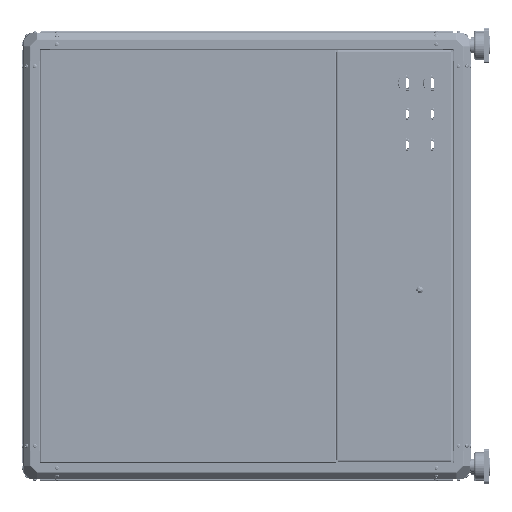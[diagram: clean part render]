
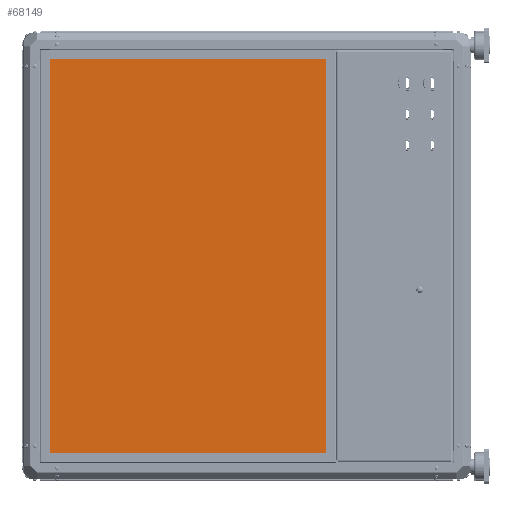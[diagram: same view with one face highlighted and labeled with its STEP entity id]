
A CAD part, left-side view. The second image highlights one B-rep face of the part: STEP entity #68149.
In plain terms, the highlighted planar face has unit normal (-1, 0, 0) as drawn and (0, 0, 1) by its records, which use the part's own axes.
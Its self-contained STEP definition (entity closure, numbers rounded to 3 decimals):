
#3466=FACE_BOUND('',#14204,.T.);
#3467=FACE_BOUND('',#14205,.T.);
#3468=FACE_BOUND('',#14206,.T.);
#3469=FACE_BOUND('',#14207,.T.);
#3470=FACE_BOUND('',#14208,.T.);
#3471=FACE_BOUND('',#14209,.T.);
#3472=FACE_BOUND('',#14210,.T.);
#5281=CIRCLE('',#74662,2.5);
#5283=CIRCLE('',#74665,2.5);
#5285=CIRCLE('',#74668,2.5);
#5287=CIRCLE('',#74671,2.5);
#5289=CIRCLE('',#74674,2.5);
#5291=CIRCLE('',#74677,2.5);
#5293=CIRCLE('',#74680,2.5);
#10122=FACE_OUTER_BOUND('',#14203,.T.);
#14203=EDGE_LOOP('',(#54494,#54495,#54496,#54497));
#14204=EDGE_LOOP('',(#54498));
#14205=EDGE_LOOP('',(#54499));
#14206=EDGE_LOOP('',(#54500));
#14207=EDGE_LOOP('',(#54501));
#14208=EDGE_LOOP('',(#54502));
#14209=EDGE_LOOP('',(#54503));
#14210=EDGE_LOOP('',(#54504));
#19874=LINE('',#114536,#26056);
#19876=LINE('',#114540,#26058);
#19878=LINE('',#114544,#26060);
#19880=LINE('',#114547,#26062);
#26056=VECTOR('',#87151,10.);
#26058=VECTOR('',#87155,10.);
#26060=VECTOR('',#87159,10.);
#26062=VECTOR('',#87163,10.);
#32220=VERTEX_POINT('',#114482);
#32222=VERTEX_POINT('',#114488);
#32224=VERTEX_POINT('',#114494);
#32226=VERTEX_POINT('',#114500);
#32228=VERTEX_POINT('',#114506);
#32230=VERTEX_POINT('',#114512);
#32232=VERTEX_POINT('',#114518);
#32238=VERTEX_POINT('',#114533);
#32239=VERTEX_POINT('',#114535);
#32240=VERTEX_POINT('',#114539);
#32241=VERTEX_POINT('',#114543);
#40128=EDGE_CURVE('',#32220,#32220,#5281,.T.);
#40131=EDGE_CURVE('',#32222,#32222,#5283,.T.);
#40134=EDGE_CURVE('',#32224,#32224,#5285,.T.);
#40137=EDGE_CURVE('',#32226,#32226,#5287,.T.);
#40140=EDGE_CURVE('',#32228,#32228,#5289,.T.);
#40143=EDGE_CURVE('',#32230,#32230,#5291,.T.);
#40146=EDGE_CURVE('',#32232,#32232,#5293,.T.);
#40154=EDGE_CURVE('',#32239,#32238,#19874,.T.);
#40156=EDGE_CURVE('',#32240,#32239,#19876,.T.);
#40158=EDGE_CURVE('',#32241,#32240,#19878,.T.);
#40160=EDGE_CURVE('',#32238,#32241,#19880,.T.);
#54494=ORIENTED_EDGE('',*,*,#40160,.T.);
#54495=ORIENTED_EDGE('',*,*,#40158,.T.);
#54496=ORIENTED_EDGE('',*,*,#40156,.T.);
#54497=ORIENTED_EDGE('',*,*,#40154,.T.);
#54498=ORIENTED_EDGE('',*,*,#40128,.T.);
#54499=ORIENTED_EDGE('',*,*,#40131,.T.);
#54500=ORIENTED_EDGE('',*,*,#40134,.T.);
#54501=ORIENTED_EDGE('',*,*,#40137,.T.);
#54502=ORIENTED_EDGE('',*,*,#40140,.T.);
#54503=ORIENTED_EDGE('',*,*,#40143,.T.);
#54504=ORIENTED_EDGE('',*,*,#40146,.T.);
#65375=PLANE('',#74687);
#68149=ADVANCED_FACE('',(#10122,#3466,#3467,#3468,#3469,#3470,#3471,#3472),
#65375,.T.);
#74662=AXIS2_PLACEMENT_3D('',#114483,#87095,#87096);
#74665=AXIS2_PLACEMENT_3D('',#114489,#87102,#87103);
#74668=AXIS2_PLACEMENT_3D('',#114495,#87109,#87110);
#74671=AXIS2_PLACEMENT_3D('',#114501,#87116,#87117);
#74674=AXIS2_PLACEMENT_3D('',#114507,#87123,#87124);
#74677=AXIS2_PLACEMENT_3D('',#114513,#87130,#87131);
#74680=AXIS2_PLACEMENT_3D('',#114519,#87137,#87138);
#74687=AXIS2_PLACEMENT_3D('',#114548,#87164,#87165);
#87095=DIRECTION('center_axis',(0.,0.,
-1.));
#87096=DIRECTION('ref_axis',(0.,-1.,0.));
#87102=DIRECTION('center_axis',(0.,0.,
-1.));
#87103=DIRECTION('ref_axis',(0.,-1.,0.));
#87109=DIRECTION('center_axis',(0.,0.,
-1.));
#87110=DIRECTION('ref_axis',(0.,-1.,0.));
#87116=DIRECTION('center_axis',(0.,0.,
-1.));
#87117=DIRECTION('ref_axis',(0.,-1.,0.));
#87123=DIRECTION('center_axis',(0.,0.,
-1.));
#87124=DIRECTION('ref_axis',(0.,-1.,0.));
#87130=DIRECTION('center_axis',(0.,0.,
-1.));
#87131=DIRECTION('ref_axis',(0.,-1.,0.));
#87137=DIRECTION('center_axis',(0.,0.,
-1.));
#87138=DIRECTION('ref_axis',(0.,-1.,0.));
#87151=DIRECTION('',(1.,0.,0.));
#87155=DIRECTION('',(0.,-1.,0.));
#87159=DIRECTION('',(-1.,0.,0.));
#87163=DIRECTION('',(0.,1.,0.));
#87164=DIRECTION('center_axis',(0.,0.,
1.));
#87165=DIRECTION('ref_axis',(1.,0.,0.));
#114482=CARTESIAN_POINT('',(-256.,2.5,12.5));
#114483=CARTESIAN_POINT('Origin',(-256.,0.,12.5));
#114488=CARTESIAN_POINT('',(-185.,363.5,12.5));
#114489=CARTESIAN_POINT('Origin',(-185.,361.,12.5));
#114494=CARTESIAN_POINT('',(-256.,292.5,12.5));
#114495=CARTESIAN_POINT('Origin',(-256.,290.,12.5));
#114500=CARTESIAN_POINT('',(-256.,-287.5,12.5));
#114501=CARTESIAN_POINT('Origin',(-256.,-290.,12.5));
#114506=CARTESIAN_POINT('',(-185.,-358.5,12.5));
#114507=CARTESIAN_POINT('Origin',(-185.,-361.,12.5));
#114512=CARTESIAN_POINT('',(185.,363.5,12.5));
#114513=CARTESIAN_POINT('Origin',(185.,361.,12.5));
#114518=CARTESIAN_POINT('',(185.,-358.5,12.5));
#114519=CARTESIAN_POINT('Origin',(185.,-361.,12.5));
#114533=CARTESIAN_POINT('',(263.,-368.,12.5));
#114535=CARTESIAN_POINT('',(-263.,-368.,12.5));
#114536=CARTESIAN_POINT('',(-263.,-368.,12.5));
#114539=CARTESIAN_POINT('',(-263.,368.,12.5));
#114540=CARTESIAN_POINT('',(-263.,368.,12.5));
#114543=CARTESIAN_POINT('',(263.,368.,12.5));
#114544=CARTESIAN_POINT('',(263.,368.,12.5));
#114547=CARTESIAN_POINT('',(263.,-368.,12.5));
#114548=CARTESIAN_POINT('Origin',(0.,0.,12.5));
